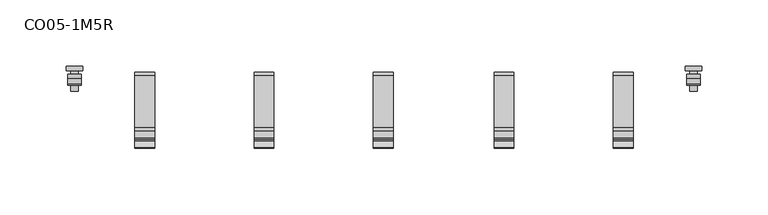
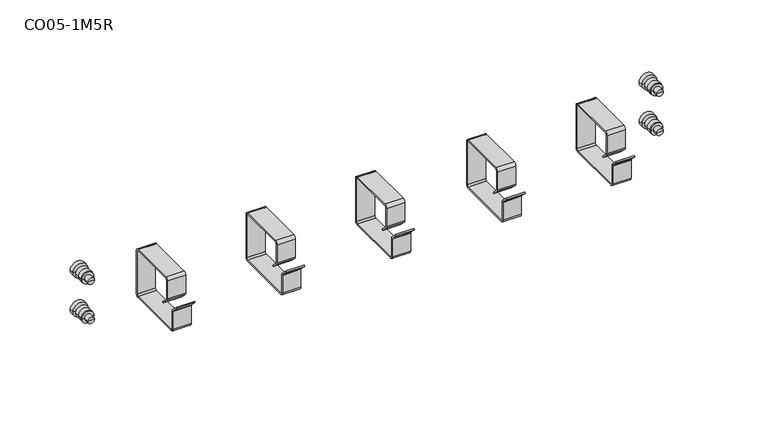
"""IFC4 building model written with IfcOpenShell, lengths in millimetres: proxy geometry, Кабельный организатор_1M5R : CO05-1M5R."""

from ifc_helpers import new_model, si_unit, point, frame, frame_2d, origin, place, context, project, spatial, polyline, circle_curve, ellipse_curve, trimmed, segment, composite_curve, outline, extrude, source, transform, mapped, element, save
from ifc_brep_helpers import plane_surface, cylinder_surface, revolved_surface, advanced_brep


def co05_1m5r_8cccb76f(model_context):
    return source(origin(), model_context, "Body", "SolidModel", [
        advanced_brep(
        [(239.6565731, 3.4999999, 5.0), (227.3853774, 3.4999999, 5.0), (233.5209752, 3.4999999, 5.0), (239.6565731, 0.0, 5.0), (227.3853774, 0.0, 5.0), (236.4065702, 0.0, 5.0), (230.6353803, 0.0, 5.0), (236.4065702, -2.45, 5.0), (230.6353803, -2.45, 5.0), (238.6388411, -2.45, 5.0), (228.4031094, -2.45, 5.0), (238.6180366, -5.6500002, 5.0), (228.4239138, -5.6500002, 5.0), (238.6180366, -9.6499999, 5.0), (228.4239138, -9.6499999, 5.0), (238.5788913, -10.6500001, 5.0), (228.4630592, -10.6500001, 5.0), (236.4065702, -10.6500001, 5.0), (230.6353803, -10.6500001, 5.0), (236.4065702, -15.2500006, 5.0), (230.6353803, -15.2500006, 5.0), (233.5209752, -15.2500006, 5.0)],
        [
            (0, 1, circle_curve(frame((233.5209752, 3.4999999, 5.0), z_axis=(0.0, 1.0, 0.0), x_axis=(-1.0, 0.0, 0.0)), 6.1355978)),
            (1, 2),
            (2, 0),
            (1, 0, circle_curve(frame((233.5209752, 3.4999999, 5.0), z_axis=(0.0, 1.0, 0.0), x_axis=(-1.0, 0.0, 0.0)), 6.1355978)),
            (3, 4, circle_curve(frame((233.5209752, 0.0, 5.0), z_axis=(0.0, 1.0, 0.0), x_axis=(-1.0, 0.0, 0.0)), 6.1355978)),
            (4, 1),
            (0, 3),
            (4, 3, circle_curve(frame((233.5209752, 0.0, 5.0), z_axis=(0.0, 1.0, 0.0), x_axis=(-1.0, 0.0, 0.0)), 6.1355978)),
            (5, 6, circle_curve(frame((233.5209752, 0.0, 5.0), z_axis=(0.0, 1.0, 0.0), x_axis=(-1.0, 0.0, 0.0)), 2.885595)),
            (6, 4),
            (3, 5),
            (6, 5, circle_curve(frame((233.5209752, 0.0, 5.0), z_axis=(0.0, 1.0, 0.0), x_axis=(-1.0, 0.0, 0.0)), 2.885595)),
            (7, 8, circle_curve(frame((233.5209752, -2.45, 5.0), z_axis=(0.0, 1.0, 0.0), x_axis=(-1.0, 0.0, 0.0)), 2.885595)),
            (8, 6),
            (5, 7),
            (8, 7, circle_curve(frame((233.5209752, -2.45, 5.0), z_axis=(0.0, 1.0, 0.0), x_axis=(-1.0, 0.0, 0.0)), 2.885595)),
            (9, 10, circle_curve(frame((233.5209752, -2.45, 5.0), z_axis=(0.0, 1.0, 0.0), x_axis=(-1.0, 0.0, 0.0)), 5.1178658)),
            (10, 8),
            (7, 9),
            (10, 9, circle_curve(frame((233.5209752, -2.45, 5.0), z_axis=(0.0, 1.0, 0.0), x_axis=(-1.0, 0.0, 0.0)), 5.1178658)),
            (11, 12, circle_curve(frame((233.5209752, -5.6500002, 5.0), z_axis=(0.0, 1.0, 0.0), x_axis=(-1.0, 0.0, 0.0)), 5.0970614)),
            (12, 10, circle_curve(frame((213.032179, -4.1500002, 5.0), z_axis=(0.0, 0.0, 1.0), x_axis=(0.0, 1.0, 0.0)), 15.4646533)),
            (9, 11, circle_curve(frame((254.0097715, -4.1500002, 5.0), z_axis=(0.0, 0.0, 1.0), x_axis=(0.0, 1.0, 0.0)), 15.4646533)),
            (12, 11, circle_curve(frame((233.5209752, -5.6500002, 5.0), z_axis=(0.0, 1.0, 0.0), x_axis=(-1.0, 0.0, 0.0)), 5.0970614)),
            (13, 14, circle_curve(frame((233.5209752, -9.6499999, 5.0), z_axis=(0.0, 1.0, 0.0), x_axis=(-1.0, 0.0, 0.0)), 5.0970614)),
            (14, 12),
            (11, 13),
            (14, 13, circle_curve(frame((233.5209752, -9.6499999, 5.0), z_axis=(0.0, 1.0, 0.0), x_axis=(-1.0, 0.0, 0.0)), 5.0970614)),
            (15, 16, circle_curve(frame((233.5209752, -10.6500001, 5.0), z_axis=(0.0, 1.0, 0.0), x_axis=(-1.0, 0.0, 0.0)), 5.057916)),
            (16, 14, circle_curve(frame((234.8413605, -9.899553, 5.0), z_axis=(0.0, 0.0, -1.0), x_axis=(0.0, 1.0, 0.0)), 6.4222969)),
            (13, 15, circle_curve(frame((232.20059, -9.899553, 5.0), z_axis=(0.0, 0.0, -1.0), x_axis=(0.0, 1.0, 0.0)), 6.4222969)),
            (16, 15, circle_curve(frame((233.5209752, -10.6500001, 5.0), z_axis=(0.0, 1.0, 0.0), x_axis=(-1.0, 0.0, 0.0)), 5.057916)),
            (17, 18, circle_curve(frame((233.5209752, -10.6500001, 5.0), z_axis=(0.0, 1.0, 0.0), x_axis=(-1.0, 0.0, 0.0)), 2.885595)),
            (18, 16),
            (15, 17),
            (18, 17, circle_curve(frame((233.5209752, -10.6500001, 5.0), z_axis=(0.0, 1.0, 0.0), x_axis=(-1.0, 0.0, 0.0)), 2.885595)),
            (19, 20, circle_curve(frame((233.5209752, -15.2500006, 5.0), z_axis=(0.0, 1.0, 0.0), x_axis=(-1.0, 0.0, 0.0)), 2.885595)),
            (20, 18),
            (17, 19),
            (20, 19, circle_curve(frame((233.5209752, -15.2500006, 5.0), z_axis=(0.0, 1.0, 0.0), x_axis=(-1.0, 0.0, 0.0)), 2.885595)),
            (21, 20),
            (19, 21),
        ],
        [
            plane_surface(frame((233.5209752, 3.4999999, 5.0), z_axis=(0.0, 1.0, 0.0), x_axis=(-1.0, 0.0, 0.0))),
            cylinder_surface(frame((233.5209752, 3.4999999, 5.0), z_axis=(0.0, -1.0, 0.0), x_axis=(-1.0, 0.0, 0.0)), 6.1355978),
            plane_surface(frame((233.5209752, 0.0, 5.0), z_axis=(0.0, -1.0, 0.0), x_axis=(-1.0, 0.0, 0.0))),
            cylinder_surface(frame((233.5209752, 3.4999999, 5.0), z_axis=(0.0, -1.0, 0.0), x_axis=(-1.0, 0.0, 0.0)), 2.885595),
            plane_surface(frame((233.5209752, -2.45, 5.0), z_axis=(0.0, 1.0, 0.0), x_axis=(-1.0, 0.0, 0.0))),
            revolved_surface(trimmed(ellipse_curve(frame((213.032179, -4.1500002, 5.0), z_axis=(0.0, 0.0, -1.0), x_axis=(0.0, 1.0, 0.0)), 15.4646533, 15.4646533), [point((228.4031094, -2.45, 5.0))], [point((228.4239138, -5.6500002, 5.0))], True, "CARTESIAN"), (233.5209752, 3.4999999, 5.0), (0.0, -1.0, 0.0)),
            cylinder_surface(frame((233.5209752, 3.4999999, 5.0), z_axis=(0.0, -1.0, 0.0), x_axis=(-1.0, 0.0, 0.0)), 5.0970614),
            revolved_surface(trimmed(ellipse_curve(frame((234.8413605, -9.899553, 5.0), z_axis=(0.0, 0.0, 1.0), x_axis=(0.0, 1.0, 0.0)), 6.4222969, 6.4222969), [point((228.4239138, -9.6499999, 5.0))], [point((228.4630592, -10.6500001, 5.0))], True, "CARTESIAN"), (233.5209752, 3.4999999, 5.0), (0.0, -1.0, 0.0)),
            plane_surface(frame((233.5209752, -10.6500001, 5.0), z_axis=(0.0, -1.0, 0.0), x_axis=(-1.0, 0.0, 0.0))),
            plane_surface(frame((233.5209752, -15.2500006, 5.0), z_axis=(0.0, -1.0, 0.0), x_axis=(-1.0, 0.0, 0.0))),
        ],
        [
            (0, [[1, 2, 3]]),
            (0, [[4, -3, -2]]),
            (1, [[5, 6, -1, 7]]),
            (1, [[8, -7, -4, -6]]),
            (2, [[9, 10, -5, 11]]),
            (2, [[12, -11, -8, -10]]),
            (3, [[13, 14, -9, 15]]),
            (3, [[16, -15, -12, -14]]),
            (4, [[17, 18, -13, 19]]),
            (4, [[20, -19, -16, -18]]),
            (5, [[21, 22, -17, 23]]),
            (5, [[24, -23, -20, -22]]),
            (6, [[25, 26, -21, 27]]),
            (6, [[28, -27, -24, -26]]),
            (7, [[29, 30, -25, 31]]),
            (7, [[32, -31, -28, -30]]),
            (8, [[33, 34, -29, 35]]),
            (8, [[36, -35, -32, -34]]),
            (3, [[37, 38, -33, 39]]),
            (3, [[40, -39, -36, -38]]),
            (9, [[41, -37, 42]]),
            (9, [[-42, -40, -41]]),
        ],
    ),
        advanced_brep(
        [(239.6565731, 3.4999999, 39.0), (227.3853774, 3.4999999, 39.0), (233.5209752, 3.4999999, 39.0), (239.6565731, 0.0, 39.0), (227.3853774, 0.0, 39.0), (236.4065702, 0.0, 39.0), (230.6353803, 0.0, 39.0), (236.4065702, -2.45, 39.0), (230.6353803, -2.45, 39.0), (238.6388411, -2.45, 39.0), (228.4031094, -2.45, 39.0), (238.6180366, -5.6500002, 39.0), (228.4239138, -5.6500002, 39.0), (238.6180366, -9.6499999, 39.0), (228.4239138, -9.6499999, 39.0), (238.5788913, -10.6500001, 39.0), (228.4630592, -10.6500001, 39.0), (236.4065702, -10.6500001, 39.0), (230.6353803, -10.6500001, 39.0), (236.4065702, -15.2500006, 39.0), (230.6353803, -15.2500006, 39.0), (233.5209752, -15.2500006, 39.0)],
        [
            (0, 1, circle_curve(frame((233.5209752, 3.4999999, 39.0), z_axis=(0.0, 1.0, 0.0), x_axis=(-1.0, 0.0, 0.0)), 6.1355978)),
            (1, 2),
            (2, 0),
            (1, 0, circle_curve(frame((233.5209752, 3.4999999, 39.0), z_axis=(0.0, 1.0, 0.0), x_axis=(-1.0, 0.0, 0.0)), 6.1355978)),
            (3, 4, circle_curve(frame((233.5209752, 0.0, 39.0), z_axis=(0.0, 1.0, 0.0), x_axis=(-1.0, 0.0, 0.0)), 6.1355978)),
            (4, 1),
            (0, 3),
            (4, 3, circle_curve(frame((233.5209752, 0.0, 39.0), z_axis=(0.0, 1.0, 0.0), x_axis=(-1.0, 0.0, 0.0)), 6.1355978)),
            (5, 6, circle_curve(frame((233.5209752, 0.0, 39.0), z_axis=(0.0, 1.0, 0.0), x_axis=(-1.0, 0.0, 0.0)), 2.885595)),
            (6, 4),
            (3, 5),
            (6, 5, circle_curve(frame((233.5209752, 0.0, 39.0), z_axis=(0.0, 1.0, 0.0), x_axis=(-1.0, 0.0, 0.0)), 2.885595)),
            (7, 8, circle_curve(frame((233.5209752, -2.45, 39.0), z_axis=(0.0, 1.0, 0.0), x_axis=(-1.0, 0.0, 0.0)), 2.885595)),
            (8, 6),
            (5, 7),
            (8, 7, circle_curve(frame((233.5209752, -2.45, 39.0), z_axis=(0.0, 1.0, 0.0), x_axis=(-1.0, 0.0, 0.0)), 2.885595)),
            (9, 10, circle_curve(frame((233.5209752, -2.45, 39.0), z_axis=(0.0, 1.0, 0.0), x_axis=(-1.0, 0.0, 0.0)), 5.1178658)),
            (10, 8),
            (7, 9),
            (10, 9, circle_curve(frame((233.5209752, -2.45, 39.0), z_axis=(0.0, 1.0, 0.0), x_axis=(-1.0, 0.0, 0.0)), 5.1178658)),
            (11, 12, circle_curve(frame((233.5209752, -5.6500002, 39.0), z_axis=(0.0, 1.0, 0.0), x_axis=(-1.0, 0.0, 0.0)), 5.0970614)),
            (12, 10, circle_curve(frame((213.032179, -4.1500002, 39.0), z_axis=(0.0, 0.0, 1.0), x_axis=(0.0, 1.0, 0.0)), 15.4646533)),
            (9, 11, circle_curve(frame((254.0097715, -4.1500002, 39.0), z_axis=(0.0, 0.0, 1.0), x_axis=(0.0, 1.0, 0.0)), 15.4646533)),
            (12, 11, circle_curve(frame((233.5209752, -5.6500002, 39.0), z_axis=(0.0, 1.0, 0.0), x_axis=(-1.0, 0.0, 0.0)), 5.0970614)),
            (13, 14, circle_curve(frame((233.5209752, -9.6499999, 39.0), z_axis=(0.0, 1.0, 0.0), x_axis=(-1.0, 0.0, 0.0)), 5.0970614)),
            (14, 12),
            (11, 13),
            (14, 13, circle_curve(frame((233.5209752, -9.6499999, 39.0), z_axis=(0.0, 1.0, 0.0), x_axis=(-1.0, 0.0, 0.0)), 5.0970614)),
            (15, 16, circle_curve(frame((233.5209752, -10.6500001, 39.0), z_axis=(0.0, 1.0, 0.0), x_axis=(-1.0, 0.0, 0.0)), 5.057916)),
            (16, 14, circle_curve(frame((234.8413605, -9.899553, 39.0), z_axis=(0.0, 0.0, -1.0), x_axis=(0.0, 1.0, 0.0)), 6.4222969)),
            (13, 15, circle_curve(frame((232.20059, -9.899553, 39.0), z_axis=(0.0, 0.0, -1.0), x_axis=(0.0, 1.0, 0.0)), 6.4222969)),
            (16, 15, circle_curve(frame((233.5209752, -10.6500001, 39.0), z_axis=(0.0, 1.0, 0.0), x_axis=(-1.0, 0.0, 0.0)), 5.057916)),
            (17, 18, circle_curve(frame((233.5209752, -10.6500001, 39.0), z_axis=(0.0, 1.0, 0.0), x_axis=(-1.0, 0.0, 0.0)), 2.885595)),
            (18, 16),
            (15, 17),
            (18, 17, circle_curve(frame((233.5209752, -10.6500001, 39.0), z_axis=(0.0, 1.0, 0.0), x_axis=(-1.0, 0.0, 0.0)), 2.885595)),
            (19, 20, circle_curve(frame((233.5209752, -15.2500006, 39.0), z_axis=(0.0, 1.0, 0.0), x_axis=(-1.0, 0.0, 0.0)), 2.885595)),
            (20, 18),
            (17, 19),
            (20, 19, circle_curve(frame((233.5209752, -15.2500006, 39.0), z_axis=(0.0, 1.0, 0.0), x_axis=(-1.0, 0.0, 0.0)), 2.885595)),
            (21, 20),
            (19, 21),
        ],
        [
            plane_surface(frame((233.5209752, 3.4999999, 39.0), z_axis=(0.0, 1.0, 0.0), x_axis=(-1.0, 0.0, 0.0))),
            cylinder_surface(frame((233.5209752, 3.4999999, 39.0), z_axis=(0.0, -1.0, 0.0), x_axis=(-1.0, 0.0, 0.0)), 6.1355978),
            plane_surface(frame((233.5209752, 0.0, 39.0), z_axis=(0.0, -1.0, 0.0), x_axis=(-1.0, 0.0, 0.0))),
            cylinder_surface(frame((233.5209752, 3.4999999, 39.0), z_axis=(0.0, -1.0, 0.0), x_axis=(-1.0, 0.0, 0.0)), 2.885595),
            plane_surface(frame((233.5209752, -2.45, 39.0), z_axis=(0.0, 1.0, 0.0), x_axis=(-1.0, 0.0, 0.0))),
            revolved_surface(trimmed(ellipse_curve(frame((213.032179, -4.1500002, 39.0), z_axis=(0.0, 0.0, -1.0), x_axis=(0.0, 1.0, 0.0)), 15.4646533, 15.4646533), [point((228.4031094, -2.45, 39.0))], [point((228.4239138, -5.6500002, 39.0))], True, "CARTESIAN"), (233.5209752, 3.4999999, 39.0), (0.0, -1.0, 0.0)),
            cylinder_surface(frame((233.5209752, 3.4999999, 39.0), z_axis=(0.0, -1.0, 0.0), x_axis=(-1.0, 0.0, 0.0)), 5.0970614),
            revolved_surface(trimmed(ellipse_curve(frame((234.8413605, -9.899553, 39.0), z_axis=(0.0, 0.0, 1.0), x_axis=(0.0, 1.0, 0.0)), 6.4222969, 6.4222969), [point((228.4239138, -9.6499999, 39.0))], [point((228.4630592, -10.6500001, 39.0))], True, "CARTESIAN"), (233.5209752, 3.4999999, 39.0), (0.0, -1.0, 0.0)),
            plane_surface(frame((233.5209752, -10.6500001, 39.0), z_axis=(0.0, -1.0, 0.0), x_axis=(-1.0, 0.0, 0.0))),
            plane_surface(frame((233.5209752, -15.2500006, 39.0), z_axis=(0.0, -1.0, 0.0), x_axis=(-1.0, 0.0, 0.0))),
        ],
        [
            (0, [[1, 2, 3]]),
            (0, [[4, -3, -2]]),
            (1, [[5, 6, -1, 7]]),
            (1, [[8, -7, -4, -6]]),
            (2, [[9, 10, -5, 11]]),
            (2, [[12, -11, -8, -10]]),
            (3, [[13, 14, -9, 15]]),
            (3, [[16, -15, -12, -14]]),
            (4, [[17, 18, -13, 19]]),
            (4, [[20, -19, -16, -18]]),
            (5, [[21, 22, -17, 23]]),
            (5, [[24, -23, -20, -22]]),
            (6, [[25, 26, -21, 27]]),
            (6, [[28, -27, -24, -26]]),
            (7, [[29, 30, -25, 31]]),
            (7, [[32, -31, -28, -30]]),
            (8, [[33, 34, -29, 35]]),
            (8, [[36, -35, -32, -34]]),
            (3, [[37, 38, -33, 39]]),
            (3, [[40, -39, -36, -38]]),
            (9, [[41, -37, 42]]),
            (9, [[-42, -40, -41]]),
        ],
    ),
        advanced_brep(
        [(-227.3898203, 3.4999999, 39.0), (-239.661016, 3.4999999, 39.0), (-233.5254182, 3.4999999, 39.0), (-227.3898203, 0.0, 39.0), (-239.661016, 0.0, 39.0), (-230.6398232, 0.0, 39.0), (-236.4110131, 0.0, 39.0), (-230.6398232, -2.45, 39.0), (-236.4110131, -2.45, 39.0), (-228.4075523, -2.45, 39.0), (-238.643284, -2.45, 39.0), (-228.4283568, -5.6500002, 39.0), (-238.6224795, -5.6500002, 39.0), (-228.4283568, -9.6499999, 39.0), (-238.6224795, -9.6499999, 39.0), (-228.4675021, -10.6500001, 39.0), (-238.5833342, -10.6500001, 39.0), (-230.6398232, -10.6500001, 39.0), (-236.4110131, -10.6500001, 39.0), (-230.6398232, -15.2500006, 39.0), (-236.4110131, -15.2500006, 39.0), (-233.5254182, -15.2500006, 39.0)],
        [
            (0, 1, circle_curve(frame((-233.5254182, 3.4999999, 39.0), z_axis=(0.0, 1.0, 0.0), x_axis=(-1.0, 0.0, 0.0)), 6.1355978)),
            (1, 2),
            (2, 0),
            (1, 0, circle_curve(frame((-233.5254182, 3.4999999, 39.0), z_axis=(0.0, 1.0, 0.0), x_axis=(-1.0, 0.0, 0.0)), 6.1355978)),
            (3, 4, circle_curve(frame((-233.5254182, 0.0, 39.0), z_axis=(0.0, 1.0, 0.0), x_axis=(-1.0, 0.0, 0.0)), 6.1355978)),
            (4, 1),
            (0, 3),
            (4, 3, circle_curve(frame((-233.5254182, 0.0, 39.0), z_axis=(0.0, 1.0, 0.0), x_axis=(-1.0, 0.0, 0.0)), 6.1355978)),
            (5, 6, circle_curve(frame((-233.5254182, 0.0, 39.0), z_axis=(0.0, 1.0, 0.0), x_axis=(-1.0, 0.0, 0.0)), 2.885595)),
            (6, 4),
            (3, 5),
            (6, 5, circle_curve(frame((-233.5254182, 0.0, 39.0), z_axis=(0.0, 1.0, 0.0), x_axis=(-1.0, 0.0, 0.0)), 2.885595)),
            (7, 8, circle_curve(frame((-233.5254182, -2.45, 39.0), z_axis=(0.0, 1.0, 0.0), x_axis=(-1.0, 0.0, 0.0)), 2.885595)),
            (8, 6),
            (5, 7),
            (8, 7, circle_curve(frame((-233.5254182, -2.45, 39.0), z_axis=(0.0, 1.0, 0.0), x_axis=(-1.0, 0.0, 0.0)), 2.885595)),
            (9, 10, circle_curve(frame((-233.5254182, -2.45, 39.0), z_axis=(0.0, 1.0, 0.0), x_axis=(-1.0, 0.0, 0.0)), 5.1178658)),
            (10, 8),
            (7, 9),
            (10, 9, circle_curve(frame((-233.5254182, -2.45, 39.0), z_axis=(0.0, 1.0, 0.0), x_axis=(-1.0, 0.0, 0.0)), 5.1178658)),
            (11, 12, circle_curve(frame((-233.5254182, -5.6500002, 39.0), z_axis=(0.0, 1.0, 0.0), x_axis=(-1.0, 0.0, 0.0)), 5.0970614)),
            (12, 10, circle_curve(frame((-254.0142144, -4.1500002, 39.0), z_axis=(0.0, 0.0, 1.0), x_axis=(0.0, 1.0, 0.0)), 15.4646533)),
            (9, 11, circle_curve(frame((-213.0366219, -4.1500002, 39.0), z_axis=(0.0, 0.0, 1.0), x_axis=(0.0, 1.0, 0.0)), 15.4646533)),
            (12, 11, circle_curve(frame((-233.5254182, -5.6500002, 39.0), z_axis=(0.0, 1.0, 0.0), x_axis=(-1.0, 0.0, 0.0)), 5.0970614)),
            (13, 14, circle_curve(frame((-233.5254182, -9.6499999, 39.0), z_axis=(0.0, 1.0, 0.0), x_axis=(-1.0, 0.0, 0.0)), 5.0970614)),
            (14, 12),
            (11, 13),
            (14, 13, circle_curve(frame((-233.5254182, -9.6499999, 39.0), z_axis=(0.0, 1.0, 0.0), x_axis=(-1.0, 0.0, 0.0)), 5.0970614)),
            (15, 16, circle_curve(frame((-233.5254182, -10.6500001, 39.0), z_axis=(0.0, 1.0, 0.0), x_axis=(-1.0, 0.0, 0.0)), 5.057916)),
            (16, 14, circle_curve(frame((-232.2050329, -9.899553, 39.0), z_axis=(0.0, 0.0, -1.0), x_axis=(0.0, 1.0, 0.0)), 6.4222969)),
            (13, 15, circle_curve(frame((-234.8458034, -9.899553, 39.0), z_axis=(0.0, 0.0, -1.0), x_axis=(0.0, 1.0, 0.0)), 6.4222969)),
            (16, 15, circle_curve(frame((-233.5254182, -10.6500001, 39.0), z_axis=(0.0, 1.0, 0.0), x_axis=(-1.0, 0.0, 0.0)), 5.057916)),
            (17, 18, circle_curve(frame((-233.5254182, -10.6500001, 39.0), z_axis=(0.0, 1.0, 0.0), x_axis=(-1.0, 0.0, 0.0)), 2.885595)),
            (18, 16),
            (15, 17),
            (18, 17, circle_curve(frame((-233.5254182, -10.6500001, 39.0), z_axis=(0.0, 1.0, 0.0), x_axis=(-1.0, 0.0, 0.0)), 2.885595)),
            (19, 20, circle_curve(frame((-233.5254182, -15.2500006, 39.0), z_axis=(0.0, 1.0, 0.0), x_axis=(-1.0, 0.0, 0.0)), 2.885595)),
            (20, 18),
            (17, 19),
            (20, 19, circle_curve(frame((-233.5254182, -15.2500006, 39.0), z_axis=(0.0, 1.0, 0.0), x_axis=(-1.0, 0.0, 0.0)), 2.885595)),
            (21, 20),
            (19, 21),
        ],
        [
            plane_surface(frame((-233.5254182, 3.4999999, 39.0), z_axis=(0.0, 1.0, 0.0), x_axis=(-1.0, 0.0, 0.0))),
            cylinder_surface(frame((-233.5254182, 3.4999999, 39.0), z_axis=(0.0, -1.0, 0.0), x_axis=(-1.0, 0.0, 0.0)), 6.1355978),
            plane_surface(frame((-233.5254182, 0.0, 39.0), z_axis=(0.0, -1.0, 0.0), x_axis=(-1.0, 0.0, 0.0))),
            cylinder_surface(frame((-233.5254182, 3.4999999, 39.0), z_axis=(0.0, -1.0, 0.0), x_axis=(-1.0, 0.0, 0.0)), 2.885595),
            plane_surface(frame((-233.5254182, -2.45, 39.0), z_axis=(0.0, 1.0, 0.0), x_axis=(-1.0, 0.0, 0.0))),
            revolved_surface(trimmed(ellipse_curve(frame((-254.0142144, -4.1500002, 39.0), z_axis=(0.0, 0.0, -1.0), x_axis=(0.0, 1.0, 0.0)), 15.4646533, 15.4646533), [point((-238.643284, -2.45, 39.0))], [point((-238.6224795, -5.6500002, 39.0))], True, "CARTESIAN"), (-233.5254182, 3.4999999, 39.0), (0.0, -1.0, 0.0)),
            cylinder_surface(frame((-233.5254182, 3.4999999, 39.0), z_axis=(0.0, -1.0, 0.0), x_axis=(-1.0, 0.0, 0.0)), 5.0970614),
            revolved_surface(trimmed(ellipse_curve(frame((-232.2050329, -9.899553, 39.0), z_axis=(0.0, 0.0, 1.0), x_axis=(0.0, 1.0, 0.0)), 6.4222969, 6.4222969), [point((-238.6224795, -9.6499999, 39.0))], [point((-238.5833342, -10.6500001, 39.0))], True, "CARTESIAN"), (-233.5254182, 3.4999999, 39.0), (0.0, -1.0, 0.0)),
            plane_surface(frame((-233.5254182, -10.6500001, 39.0), z_axis=(0.0, -1.0, 0.0), x_axis=(-1.0, 0.0, 0.0))),
            plane_surface(frame((-233.5254182, -15.2500006, 39.0), z_axis=(0.0, -1.0, 0.0), x_axis=(-1.0, 0.0, 0.0))),
        ],
        [
            (0, [[1, 2, 3]]),
            (0, [[4, -3, -2]]),
            (1, [[5, 6, -1, 7]]),
            (1, [[8, -7, -4, -6]]),
            (2, [[9, 10, -5, 11]]),
            (2, [[12, -11, -8, -10]]),
            (3, [[13, 14, -9, 15]]),
            (3, [[16, -15, -12, -14]]),
            (4, [[17, 18, -13, 19]]),
            (4, [[20, -19, -16, -18]]),
            (5, [[21, 22, -17, 23]]),
            (5, [[24, -23, -20, -22]]),
            (6, [[25, 26, -21, 27]]),
            (6, [[28, -27, -24, -26]]),
            (7, [[29, 30, -25, 31]]),
            (7, [[32, -31, -28, -30]]),
            (8, [[33, 34, -29, 35]]),
            (8, [[36, -35, -32, -34]]),
            (3, [[37, 38, -33, 39]]),
            (3, [[40, -39, -36, -38]]),
            (9, [[41, -37, 42]]),
            (9, [[-42, -40, -41]]),
        ],
    ),
        advanced_brep(
        [(-227.3898203, 3.4999999, 5.0), (-239.661016, 3.4999999, 5.0), (-233.5254182, 3.4999999, 5.0), (-227.3898203, 0.0, 5.0), (-239.661016, 0.0, 5.0), (-230.6398232, 0.0, 5.0), (-236.4110131, 0.0, 5.0), (-230.6398232, -2.45, 5.0), (-236.4110131, -2.45, 5.0), (-228.4075523, -2.45, 5.0), (-238.643284, -2.45, 5.0), (-228.4283568, -5.6500002, 5.0), (-238.6224795, -5.6500002, 5.0), (-228.4283568, -9.6499999, 5.0), (-238.6224795, -9.6499999, 5.0), (-228.4675021, -10.6500001, 5.0), (-238.5833342, -10.6500001, 5.0), (-230.6398232, -10.6500001, 5.0), (-236.4110131, -10.6500001, 5.0), (-230.6398232, -15.2500006, 5.0), (-236.4110131, -15.2500006, 5.0), (-233.5254182, -15.2500006, 5.0)],
        [
            (0, 1, circle_curve(frame((-233.5254182, 3.4999999, 5.0), z_axis=(0.0, 1.0, 0.0), x_axis=(-1.0, 0.0, 0.0)), 6.1355978)),
            (1, 2),
            (2, 0),
            (1, 0, circle_curve(frame((-233.5254182, 3.4999999, 5.0), z_axis=(0.0, 1.0, 0.0), x_axis=(-1.0, 0.0, 0.0)), 6.1355978)),
            (3, 4, circle_curve(frame((-233.5254182, 0.0, 5.0), z_axis=(0.0, 1.0, 0.0), x_axis=(-1.0, 0.0, 0.0)), 6.1355978)),
            (4, 1),
            (0, 3),
            (4, 3, circle_curve(frame((-233.5254182, 0.0, 5.0), z_axis=(0.0, 1.0, 0.0), x_axis=(-1.0, 0.0, 0.0)), 6.1355978)),
            (5, 6, circle_curve(frame((-233.5254182, 0.0, 5.0), z_axis=(0.0, 1.0, 0.0), x_axis=(-1.0, 0.0, 0.0)), 2.885595)),
            (6, 4),
            (3, 5),
            (6, 5, circle_curve(frame((-233.5254182, 0.0, 5.0), z_axis=(0.0, 1.0, 0.0), x_axis=(-1.0, 0.0, 0.0)), 2.885595)),
            (7, 8, circle_curve(frame((-233.5254182, -2.45, 5.0), z_axis=(0.0, 1.0, 0.0), x_axis=(-1.0, 0.0, 0.0)), 2.885595)),
            (8, 6),
            (5, 7),
            (8, 7, circle_curve(frame((-233.5254182, -2.45, 5.0), z_axis=(0.0, 1.0, 0.0), x_axis=(-1.0, 0.0, 0.0)), 2.885595)),
            (9, 10, circle_curve(frame((-233.5254182, -2.45, 5.0), z_axis=(0.0, 1.0, 0.0), x_axis=(-1.0, 0.0, 0.0)), 5.1178658)),
            (10, 8),
            (7, 9),
            (10, 9, circle_curve(frame((-233.5254182, -2.45, 5.0), z_axis=(0.0, 1.0, 0.0), x_axis=(-1.0, 0.0, 0.0)), 5.1178658)),
            (11, 12, circle_curve(frame((-233.5254182, -5.6500002, 5.0), z_axis=(0.0, 1.0, 0.0), x_axis=(-1.0, 0.0, 0.0)), 5.0970614)),
            (12, 10, circle_curve(frame((-254.0142144, -4.1500002, 5.0), z_axis=(0.0, 0.0, 1.0), x_axis=(0.0, 1.0, 0.0)), 15.4646533)),
            (9, 11, circle_curve(frame((-213.0366219, -4.1500002, 5.0), z_axis=(0.0, 0.0, 1.0), x_axis=(0.0, 1.0, 0.0)), 15.4646533)),
            (12, 11, circle_curve(frame((-233.5254182, -5.6500002, 5.0), z_axis=(0.0, 1.0, 0.0), x_axis=(-1.0, 0.0, 0.0)), 5.0970614)),
            (13, 14, circle_curve(frame((-233.5254182, -9.6499999, 5.0), z_axis=(0.0, 1.0, 0.0), x_axis=(-1.0, 0.0, 0.0)), 5.0970614)),
            (14, 12),
            (11, 13),
            (14, 13, circle_curve(frame((-233.5254182, -9.6499999, 5.0), z_axis=(0.0, 1.0, 0.0), x_axis=(-1.0, 0.0, 0.0)), 5.0970614)),
            (15, 16, circle_curve(frame((-233.5254182, -10.6500001, 5.0), z_axis=(0.0, 1.0, 0.0), x_axis=(-1.0, 0.0, 0.0)), 5.057916)),
            (16, 14, circle_curve(frame((-232.2050329, -9.899553, 5.0), z_axis=(0.0, 0.0, -1.0), x_axis=(0.0, 1.0, 0.0)), 6.4222969)),
            (13, 15, circle_curve(frame((-234.8458034, -9.899553, 5.0), z_axis=(0.0, 0.0, -1.0), x_axis=(0.0, 1.0, 0.0)), 6.4222969)),
            (16, 15, circle_curve(frame((-233.5254182, -10.6500001, 5.0), z_axis=(0.0, 1.0, 0.0), x_axis=(-1.0, 0.0, 0.0)), 5.057916)),
            (17, 18, circle_curve(frame((-233.5254182, -10.6500001, 5.0), z_axis=(0.0, 1.0, 0.0), x_axis=(-1.0, 0.0, 0.0)), 2.885595)),
            (18, 16),
            (15, 17),
            (18, 17, circle_curve(frame((-233.5254182, -10.6500001, 5.0), z_axis=(0.0, 1.0, 0.0), x_axis=(-1.0, 0.0, 0.0)), 2.885595)),
            (19, 20, circle_curve(frame((-233.5254182, -15.2500006, 5.0), z_axis=(0.0, 1.0, 0.0), x_axis=(-1.0, 0.0, 0.0)), 2.885595)),
            (20, 18),
            (17, 19),
            (20, 19, circle_curve(frame((-233.5254182, -15.2500006, 5.0), z_axis=(0.0, 1.0, 0.0), x_axis=(-1.0, 0.0, 0.0)), 2.885595)),
            (21, 20),
            (19, 21),
        ],
        [
            plane_surface(frame((-233.5254182, 3.4999999, 5.0), z_axis=(0.0, 1.0, 0.0), x_axis=(-1.0, 0.0, 0.0))),
            cylinder_surface(frame((-233.5254182, 3.4999999, 5.0), z_axis=(0.0, -1.0, 0.0), x_axis=(-1.0, 0.0, 0.0)), 6.1355978),
            plane_surface(frame((-233.5254182, 0.0, 5.0), z_axis=(0.0, -1.0, 0.0), x_axis=(-1.0, 0.0, 0.0))),
            cylinder_surface(frame((-233.5254182, 3.4999999, 5.0), z_axis=(0.0, -1.0, 0.0), x_axis=(-1.0, 0.0, 0.0)), 2.885595),
            plane_surface(frame((-233.5254182, -2.45, 5.0), z_axis=(0.0, 1.0, 0.0), x_axis=(-1.0, 0.0, 0.0))),
            revolved_surface(trimmed(ellipse_curve(frame((-254.0142144, -4.1500002, 5.0), z_axis=(0.0, 0.0, -1.0), x_axis=(0.0, 1.0, 0.0)), 15.4646533, 15.4646533), [point((-238.643284, -2.45, 5.0))], [point((-238.6224795, -5.6500002, 5.0))], True, "CARTESIAN"), (-233.5254182, 3.4999999, 5.0), (0.0, -1.0, 0.0)),
            cylinder_surface(frame((-233.5254182, 3.4999999, 5.0), z_axis=(0.0, -1.0, 0.0), x_axis=(-1.0, 0.0, 0.0)), 5.0970614),
            revolved_surface(trimmed(ellipse_curve(frame((-232.2050329, -9.899553, 5.0), z_axis=(0.0, 0.0, 1.0), x_axis=(0.0, 1.0, 0.0)), 6.4222969, 6.4222969), [point((-238.6224795, -9.6499999, 5.0))], [point((-238.5833342, -10.6500001, 5.0))], True, "CARTESIAN"), (-233.5254182, 3.4999999, 5.0), (0.0, -1.0, 0.0)),
            plane_surface(frame((-233.5254182, -10.6500001, 5.0), z_axis=(0.0, -1.0, 0.0), x_axis=(-1.0, 0.0, 0.0))),
            plane_surface(frame((-233.5254182, -15.2500006, 5.0), z_axis=(0.0, -1.0, 0.0), x_axis=(-1.0, 0.0, 0.0))),
        ],
        [
            (0, [[1, 2, 3]]),
            (0, [[4, -3, -2]]),
            (1, [[5, 6, -1, 7]]),
            (1, [[8, -7, -4, -6]]),
            (2, [[9, 10, -5, 11]]),
            (2, [[12, -11, -8, -10]]),
            (3, [[13, 14, -9, 15]]),
            (3, [[16, -15, -12, -14]]),
            (4, [[17, 18, -13, 19]]),
            (4, [[20, -19, -16, -18]]),
            (5, [[21, 22, -17, 23]]),
            (5, [[24, -23, -20, -22]]),
            (6, [[25, 26, -21, 27]]),
            (6, [[28, -27, -24, -26]]),
            (7, [[29, 30, -25, 31]]),
            (7, [[32, -31, -28, -30]]),
            (8, [[33, 34, -29, 35]]),
            (8, [[36, -35, -32, -34]]),
            (3, [[37, 38, -33, 39]]),
            (3, [[40, -39, -36, -38]]),
            (9, [[41, -37, 42]]),
            (9, [[-42, -40, -41]]),
        ],
    ),
        extrude(outline(composite_curve([segment(trimmed(circle_curve(frame_2d((-50.5725347, 3.9274646)), 2.4274653), [point((-50.5725347, 1.4999993))], [point((-53.0, 3.9274646))], False, "CARTESIAN"), True, "CONTINUOUS"), segment(polyline([(-53.0, 3.9274646), (-53.0, 19.5058873)]), True, "CONTINUOUS"), segment(trimmed(circle_curve(frame_2d((-54.2, 19.5058873)), 1.2), [point((-53.0, 19.5058873))], [point((-53.3523043, 20.3552471))], True, "CARTESIAN"), True, "CONTINUOUS"), segment(polyline([(-53.3523043, 20.3552471), (-58.3053824, 25.308326), (-57.5982756, 26.0154328), (-52.6454921, 21.0626484)]), True, "CONTINUOUS"), segment(trimmed(circle_curve(frame_2d((-54.2, 19.5058873)), 2.2), [point((-52.6454921, 21.0626484))], [point((-52.0, 19.5058873))], False, "CARTESIAN"), True, "CONTINUOUS"), segment(polyline([(-52.0, 19.5058873), (-52.0, 3.9274646)]), True, "CONTINUOUS"), segment(trimmed(circle_curve(frame_2d((-50.5725347, 3.9274646)), 1.4274653), [point((-52.0, 3.9274646))], [point((-50.5725347, 2.4999993))], True, "CARTESIAN"), True, "CONTINUOUS"), segment(polyline([(-50.5725347, 2.4999993), (-3.3995516, 2.4999993)]), True, "CONTINUOUS"), segment(trimmed(circle_curve(frame_2d((-3.3995516, 3.8995509)), 1.3995516), [point((-3.3995516, 2.4999993))], [point((-2.0, 3.8995509))], True, "CARTESIAN"), True, "CONTINUOUS"), segment(polyline([(-2.0, 3.8995509), (-2.0, 40.9999997)]), True, "CONTINUOUS"), segment(trimmed(circle_curve(frame_2d((-3.4, 40.9999997)), 1.4), [point((-2.0, 40.9999997))], [point((-3.4, 42.3999997))], True, "CARTESIAN"), True, "CONTINUOUS"), segment(polyline([(-3.4, 42.3999997), (-42.6, 42.3999997)]), True, "CONTINUOUS"), segment(trimmed(circle_curve(frame_2d((-42.6, 40.9999982)), 1.4000014), [point((-42.6, 42.3999997))], [point((-44.0000014, 40.9999982))], True, "CARTESIAN"), True, "CONTINUOUS"), segment(polyline([(-44.0000014, 40.9999982), (-44.0000014, 25.3941124)]), True, "CONTINUOUS"), segment(trimmed(circle_curve(frame_2d((-42.6000012, 25.3941124)), 1.4000003), [point((-44.0000014, 25.3941124))], [point((-43.5899506, 24.4041624))], True, "CARTESIAN"), True, "CONTINUOUS"), segment(polyline([(-43.5899506, 24.4041624), (-38.6360378, 19.4502526), (-39.3431446, 18.7431458), (-44.2970571, 23.6970554)]), True, "CONTINUOUS"), segment(trimmed(circle_curve(frame_2d((-42.6000012, 25.3941124)), 2.4000003), [point((-44.2970571, 23.6970554))], [point((-45.0000014, 25.3941124))], False, "CARTESIAN"), True, "CONTINUOUS"), segment(polyline([(-45.0000014, 25.3941124), (-45.0000014, 40.9999982)]), True, "CONTINUOUS"), segment(trimmed(circle_curve(frame_2d((-42.6, 40.9999982)), 2.4000014), [point((-45.0000014, 40.9999982))], [point((-42.6, 43.3999997))], False, "CARTESIAN"), True, "CONTINUOUS"), segment(polyline([(-42.6, 43.3999997), (-3.4, 43.3999997)]), True, "CONTINUOUS"), segment(trimmed(circle_curve(frame_2d((-3.4, 40.9999997)), 2.4), [point((-3.4, 43.3999997))], [point((-1.0, 40.9999997))], False, "CARTESIAN"), True, "CONTINUOUS"), segment(polyline([(-1.0, 40.9999997), (-1.0, 3.8995509)]), True, "CONTINUOUS"), segment(trimmed(circle_curve(frame_2d((-3.3995516, 3.8995509)), 2.3995516), [point((-1.0, 3.8995509))], [point((-3.3995516, 1.4999993))], False, "CARTESIAN"), True, "CONTINUOUS"), segment(polyline([(-3.3995516, 1.4999993), (-50.5725347, 1.4999993)]), True, "CONTINUOUS")], self_intersect=False)), frame((173.0, 0.0, 0.0), z_axis=(1.0, 0.0, 0.0), x_axis=(0.0, 1.0, 0.0)), (0.0, 0.0, 1.0), 15.0),
        extrude(outline(composite_curve([segment(trimmed(circle_curve(frame_2d((-50.5725347, 3.9274646)), 2.4274653), [point((-50.5725347, 1.4999993))], [point((-53.0, 3.9274646))], False, "CARTESIAN"), True, "CONTINUOUS"), segment(polyline([(-53.0, 3.9274646), (-53.0, 19.5058873)]), True, "CONTINUOUS"), segment(trimmed(circle_curve(frame_2d((-54.2, 19.5058873)), 1.2), [point((-53.0, 19.5058873))], [point((-53.3523043, 20.3552471))], True, "CARTESIAN"), True, "CONTINUOUS"), segment(polyline([(-53.3523043, 20.3552471), (-58.3053824, 25.308326), (-57.5982756, 26.0154328), (-52.6454921, 21.0626484)]), True, "CONTINUOUS"), segment(trimmed(circle_curve(frame_2d((-54.2, 19.5058873)), 2.2), [point((-52.6454921, 21.0626484))], [point((-52.0, 19.5058873))], False, "CARTESIAN"), True, "CONTINUOUS"), segment(polyline([(-52.0, 19.5058873), (-52.0, 3.9274646)]), True, "CONTINUOUS"), segment(trimmed(circle_curve(frame_2d((-50.5725347, 3.9274646)), 1.4274653), [point((-52.0, 3.9274646))], [point((-50.5725347, 2.4999993))], True, "CARTESIAN"), True, "CONTINUOUS"), segment(polyline([(-50.5725347, 2.4999993), (-3.3995516, 2.4999993)]), True, "CONTINUOUS"), segment(trimmed(circle_curve(frame_2d((-3.3995516, 3.8995509)), 1.3995516), [point((-3.3995516, 2.4999993))], [point((-2.0, 3.8995509))], True, "CARTESIAN"), True, "CONTINUOUS"), segment(polyline([(-2.0, 3.8995509), (-2.0, 40.9999997)]), True, "CONTINUOUS"), segment(trimmed(circle_curve(frame_2d((-3.4, 40.9999997)), 1.4), [point((-2.0, 40.9999997))], [point((-3.4, 42.3999997))], True, "CARTESIAN"), True, "CONTINUOUS"), segment(polyline([(-3.4, 42.3999997), (-42.6, 42.3999997)]), True, "CONTINUOUS"), segment(trimmed(circle_curve(frame_2d((-42.6, 40.9999982)), 1.4000014), [point((-42.6, 42.3999997))], [point((-44.0000014, 40.9999982))], True, "CARTESIAN"), True, "CONTINUOUS"), segment(polyline([(-44.0000014, 40.9999982), (-44.0000014, 25.3941124)]), True, "CONTINUOUS"), segment(trimmed(circle_curve(frame_2d((-42.6000012, 25.3941124)), 1.4000003), [point((-44.0000014, 25.3941124))], [point((-43.5899506, 24.4041624))], True, "CARTESIAN"), True, "CONTINUOUS"), segment(polyline([(-43.5899506, 24.4041624), (-38.6360378, 19.4502526), (-39.3431446, 18.7431458), (-44.2970571, 23.6970554)]), True, "CONTINUOUS"), segment(trimmed(circle_curve(frame_2d((-42.6000012, 25.3941124)), 2.4000003), [point((-44.2970571, 23.6970554))], [point((-45.0000014, 25.3941124))], False, "CARTESIAN"), True, "CONTINUOUS"), segment(polyline([(-45.0000014, 25.3941124), (-45.0000014, 40.9999982)]), True, "CONTINUOUS"), segment(trimmed(circle_curve(frame_2d((-42.6, 40.9999982)), 2.4000014), [point((-45.0000014, 40.9999982))], [point((-42.6, 43.3999997))], False, "CARTESIAN"), True, "CONTINUOUS"), segment(polyline([(-42.6, 43.3999997), (-3.4, 43.3999997)]), True, "CONTINUOUS"), segment(trimmed(circle_curve(frame_2d((-3.4, 40.9999997)), 2.4), [point((-3.4, 43.3999997))], [point((-1.0, 40.9999997))], False, "CARTESIAN"), True, "CONTINUOUS"), segment(polyline([(-1.0, 40.9999997), (-1.0, 3.8995509)]), True, "CONTINUOUS"), segment(trimmed(circle_curve(frame_2d((-3.3995516, 3.8995509)), 2.3995516), [point((-1.0, 3.8995509))], [point((-3.3995516, 1.4999993))], False, "CARTESIAN"), True, "CONTINUOUS"), segment(polyline([(-3.3995516, 1.4999993), (-50.5725347, 1.4999993)]), True, "CONTINUOUS")], self_intersect=False)), frame((83.0, 0.0, 0.0), z_axis=(1.0, 0.0, 0.0), x_axis=(0.0, 1.0, 0.0)), (0.0, 0.0, 1.0), 15.0),
        extrude(outline(composite_curve([segment(trimmed(circle_curve(frame_2d((-50.5725347, 3.9274646)), 2.4274653), [point((-50.5725347, 1.4999993))], [point((-53.0, 3.9274646))], False, "CARTESIAN"), True, "CONTINUOUS"), segment(polyline([(-53.0, 3.9274646), (-53.0, 19.5058873)]), True, "CONTINUOUS"), segment(trimmed(circle_curve(frame_2d((-54.2, 19.5058873)), 1.2), [point((-53.0, 19.5058873))], [point((-53.3523043, 20.3552471))], True, "CARTESIAN"), True, "CONTINUOUS"), segment(polyline([(-53.3523043, 20.3552471), (-58.3053824, 25.308326), (-57.5982756, 26.0154328), (-52.6454921, 21.0626484)]), True, "CONTINUOUS"), segment(trimmed(circle_curve(frame_2d((-54.2, 19.5058873)), 2.2), [point((-52.6454921, 21.0626484))], [point((-52.0, 19.5058873))], False, "CARTESIAN"), True, "CONTINUOUS"), segment(polyline([(-52.0, 19.5058873), (-52.0, 3.9274646)]), True, "CONTINUOUS"), segment(trimmed(circle_curve(frame_2d((-50.5725347, 3.9274646)), 1.4274653), [point((-52.0, 3.9274646))], [point((-50.5725347, 2.4999993))], True, "CARTESIAN"), True, "CONTINUOUS"), segment(polyline([(-50.5725347, 2.4999993), (-3.3995516, 2.4999993)]), True, "CONTINUOUS"), segment(trimmed(circle_curve(frame_2d((-3.3995516, 3.8995509)), 1.3995516), [point((-3.3995516, 2.4999993))], [point((-2.0, 3.8995509))], True, "CARTESIAN"), True, "CONTINUOUS"), segment(polyline([(-2.0, 3.8995509), (-2.0, 40.9999997)]), True, "CONTINUOUS"), segment(trimmed(circle_curve(frame_2d((-3.4, 40.9999997)), 1.4), [point((-2.0, 40.9999997))], [point((-3.4, 42.3999997))], True, "CARTESIAN"), True, "CONTINUOUS"), segment(polyline([(-3.4, 42.3999997), (-42.6, 42.3999997)]), True, "CONTINUOUS"), segment(trimmed(circle_curve(frame_2d((-42.6, 40.9999982)), 1.4000014), [point((-42.6, 42.3999997))], [point((-44.0000014, 40.9999982))], True, "CARTESIAN"), True, "CONTINUOUS"), segment(polyline([(-44.0000014, 40.9999982), (-44.0000014, 25.3941124)]), True, "CONTINUOUS"), segment(trimmed(circle_curve(frame_2d((-42.6000012, 25.3941124)), 1.4000003), [point((-44.0000014, 25.3941124))], [point((-43.5899506, 24.4041624))], True, "CARTESIAN"), True, "CONTINUOUS"), segment(polyline([(-43.5899506, 24.4041624), (-38.6360378, 19.4502526), (-39.3431446, 18.7431458), (-44.2970571, 23.6970554)]), True, "CONTINUOUS"), segment(trimmed(circle_curve(frame_2d((-42.6000012, 25.3941124)), 2.4000003), [point((-44.2970571, 23.6970554))], [point((-45.0000014, 25.3941124))], False, "CARTESIAN"), True, "CONTINUOUS"), segment(polyline([(-45.0000014, 25.3941124), (-45.0000014, 40.9999982)]), True, "CONTINUOUS"), segment(trimmed(circle_curve(frame_2d((-42.6, 40.9999982)), 2.4000014), [point((-45.0000014, 40.9999982))], [point((-42.6, 43.3999997))], False, "CARTESIAN"), True, "CONTINUOUS"), segment(polyline([(-42.6, 43.3999997), (-3.4, 43.3999997)]), True, "CONTINUOUS"), segment(trimmed(circle_curve(frame_2d((-3.4, 40.9999997)), 2.4), [point((-3.4, 43.3999997))], [point((-1.0, 40.9999997))], False, "CARTESIAN"), True, "CONTINUOUS"), segment(polyline([(-1.0, 40.9999997), (-1.0, 3.8995509)]), True, "CONTINUOUS"), segment(trimmed(circle_curve(frame_2d((-3.3995516, 3.8995509)), 2.3995516), [point((-1.0, 3.8995509))], [point((-3.3995516, 1.4999993))], False, "CARTESIAN"), True, "CONTINUOUS"), segment(polyline([(-3.3995516, 1.4999993), (-50.5725347, 1.4999993)]), True, "CONTINUOUS")], self_intersect=False)), frame((-8.0, 0.0, 0.0), z_axis=(1.0, 0.0, 0.0), x_axis=(0.0, 1.0, 0.0)), (0.0, 0.0, 1.0), 15.0),
        extrude(outline(composite_curve([segment(trimmed(circle_curve(frame_2d((-50.5725347, 3.9274646)), 2.4274653), [point((-50.5725347, 1.4999993))], [point((-53.0, 3.9274646))], False, "CARTESIAN"), True, "CONTINUOUS"), segment(polyline([(-53.0, 3.9274646), (-53.0, 19.5058873)]), True, "CONTINUOUS"), segment(trimmed(circle_curve(frame_2d((-54.2, 19.5058873)), 1.2), [point((-53.0, 19.5058873))], [point((-53.3523043, 20.3552471))], True, "CARTESIAN"), True, "CONTINUOUS"), segment(polyline([(-53.3523043, 20.3552471), (-58.3053824, 25.308326), (-57.5982756, 26.0154328), (-52.6454921, 21.0626484)]), True, "CONTINUOUS"), segment(trimmed(circle_curve(frame_2d((-54.2, 19.5058873)), 2.2), [point((-52.6454921, 21.0626484))], [point((-52.0, 19.5058873))], False, "CARTESIAN"), True, "CONTINUOUS"), segment(polyline([(-52.0, 19.5058873), (-52.0, 3.9274646)]), True, "CONTINUOUS"), segment(trimmed(circle_curve(frame_2d((-50.5725347, 3.9274646)), 1.4274653), [point((-52.0, 3.9274646))], [point((-50.5725347, 2.4999993))], True, "CARTESIAN"), True, "CONTINUOUS"), segment(polyline([(-50.5725347, 2.4999993), (-3.3995516, 2.4999993)]), True, "CONTINUOUS"), segment(trimmed(circle_curve(frame_2d((-3.3995516, 3.8995509)), 1.3995516), [point((-3.3995516, 2.4999993))], [point((-2.0, 3.8995509))], True, "CARTESIAN"), True, "CONTINUOUS"), segment(polyline([(-2.0, 3.8995509), (-2.0, 40.9999997)]), True, "CONTINUOUS"), segment(trimmed(circle_curve(frame_2d((-3.4, 40.9999997)), 1.4), [point((-2.0, 40.9999997))], [point((-3.4, 42.3999997))], True, "CARTESIAN"), True, "CONTINUOUS"), segment(polyline([(-3.4, 42.3999997), (-42.6, 42.3999997)]), True, "CONTINUOUS"), segment(trimmed(circle_curve(frame_2d((-42.6, 40.9999982)), 1.4000014), [point((-42.6, 42.3999997))], [point((-44.0000014, 40.9999982))], True, "CARTESIAN"), True, "CONTINUOUS"), segment(polyline([(-44.0000014, 40.9999982), (-44.0000014, 25.3941124)]), True, "CONTINUOUS"), segment(trimmed(circle_curve(frame_2d((-42.6000012, 25.3941124)), 1.4000003), [point((-44.0000014, 25.3941124))], [point((-43.5899506, 24.4041624))], True, "CARTESIAN"), True, "CONTINUOUS"), segment(polyline([(-43.5899506, 24.4041624), (-38.6360378, 19.4502526), (-39.3431446, 18.7431458), (-44.2970571, 23.6970554)]), True, "CONTINUOUS"), segment(trimmed(circle_curve(frame_2d((-42.6000012, 25.3941124)), 2.4000003), [point((-44.2970571, 23.6970554))], [point((-45.0000014, 25.3941124))], False, "CARTESIAN"), True, "CONTINUOUS"), segment(polyline([(-45.0000014, 25.3941124), (-45.0000014, 40.9999982)]), True, "CONTINUOUS"), segment(trimmed(circle_curve(frame_2d((-42.6, 40.9999982)), 2.4000014), [point((-45.0000014, 40.9999982))], [point((-42.6, 43.3999997))], False, "CARTESIAN"), True, "CONTINUOUS"), segment(polyline([(-42.6, 43.3999997), (-3.4, 43.3999997)]), True, "CONTINUOUS"), segment(trimmed(circle_curve(frame_2d((-3.4, 40.9999997)), 2.4), [point((-3.4, 43.3999997))], [point((-1.0, 40.9999997))], False, "CARTESIAN"), True, "CONTINUOUS"), segment(polyline([(-1.0, 40.9999997), (-1.0, 3.8995509)]), True, "CONTINUOUS"), segment(trimmed(circle_curve(frame_2d((-3.3995516, 3.8995509)), 2.3995516), [point((-1.0, 3.8995509))], [point((-3.3995516, 1.4999993))], False, "CARTESIAN"), True, "CONTINUOUS"), segment(polyline([(-3.3995516, 1.4999993), (-50.5725347, 1.4999993)]), True, "CONTINUOUS")], self_intersect=False)), frame((-98.0, 0.0, 0.0), z_axis=(1.0, 0.0, 0.0), x_axis=(0.0, 1.0, 0.0)), (0.0, 0.0, 1.0), 15.0),
        extrude(outline(composite_curve([segment(trimmed(circle_curve(frame_2d((-50.5725347, 3.9274646)), 2.4274653), [point((-50.5725347, 1.4999993))], [point((-52.9999999, 3.9274646))], False, "CARTESIAN"), True, "CONTINUOUS"), segment(polyline([(-52.9999999, 3.9274646), (-52.9999999, 19.5058873)]), True, "CONTINUOUS"), segment(trimmed(circle_curve(frame_2d((-54.1999999, 19.5058873)), 1.2), [point((-52.9999999, 19.5058873))], [point((-53.3523043, 20.3552471))], True, "CARTESIAN"), True, "CONTINUOUS"), segment(polyline([(-53.3523043, 20.3552471), (-58.3053823, 25.308326), (-57.5982756, 26.0154328), (-52.645492, 21.0626484)]), True, "CONTINUOUS"), segment(trimmed(circle_curve(frame_2d((-54.1999999, 19.5058873)), 2.2), [point((-52.645492, 21.0626484))], [point((-51.9999999, 19.5058873))], False, "CARTESIAN"), True, "CONTINUOUS"), segment(polyline([(-51.9999999, 19.5058873), (-51.9999999, 3.9274646)]), True, "CONTINUOUS"), segment(trimmed(circle_curve(frame_2d((-50.5725347, 3.9274646)), 1.4274653), [point((-51.9999999, 3.9274646))], [point((-50.5725347, 2.4999993))], True, "CARTESIAN"), True, "CONTINUOUS"), segment(polyline([(-50.5725347, 2.4999993), (-3.3995515, 2.4999993)]), True, "CONTINUOUS"), segment(trimmed(circle_curve(frame_2d((-3.3995515, 3.8995509)), 1.3995516), [point((-3.3995515, 2.4999993))], [point((-1.9999999, 3.8995509))], True, "CARTESIAN"), True, "CONTINUOUS"), segment(polyline([(-1.9999999, 3.8995509), (-1.9999999, 40.9999997)]), True, "CONTINUOUS"), segment(trimmed(circle_curve(frame_2d((-3.3999999, 40.9999997)), 1.4), [point((-1.9999999, 40.9999997))], [point((-3.3999999, 42.3999997))], True, "CARTESIAN"), True, "CONTINUOUS"), segment(polyline([(-3.3999999, 42.3999997), (-42.5999999, 42.3999997)]), True, "CONTINUOUS"), segment(trimmed(circle_curve(frame_2d((-42.5999999, 40.9999982)), 1.4000014), [point((-42.5999999, 42.3999997))], [point((-44.0000014, 40.9999982))], True, "CARTESIAN"), True, "CONTINUOUS"), segment(polyline([(-44.0000014, 40.9999982), (-44.0000014, 25.3941124)]), True, "CONTINUOUS"), segment(trimmed(circle_curve(frame_2d((-42.6000011, 25.3941124)), 1.4000003), [point((-44.0000014, 25.3941124))], [point((-43.5899505, 24.4041624))], True, "CARTESIAN"), True, "CONTINUOUS"), segment(polyline([(-43.5899505, 24.4041624), (-38.6360378, 19.4502526), (-39.3431446, 18.7431458), (-44.2970571, 23.6970554)]), True, "CONTINUOUS"), segment(trimmed(circle_curve(frame_2d((-42.6000011, 25.3941124)), 2.4000003), [point((-44.2970571, 23.6970554))], [point((-45.0000014, 25.3941124))], False, "CARTESIAN"), True, "CONTINUOUS"), segment(polyline([(-45.0000014, 25.3941124), (-45.0000014, 40.9999982)]), True, "CONTINUOUS"), segment(trimmed(circle_curve(frame_2d((-42.5999999, 40.9999982)), 2.4000014), [point((-45.0000014, 40.9999982))], [point((-42.5999999, 43.3999997))], False, "CARTESIAN"), True, "CONTINUOUS"), segment(polyline([(-42.5999999, 43.3999997), (-3.3999999, 43.3999997)]), True, "CONTINUOUS"), segment(trimmed(circle_curve(frame_2d((-3.3999999, 40.9999997)), 2.4), [point((-3.3999999, 43.3999997))], [point((-0.9999999, 40.9999997))], False, "CARTESIAN"), True, "CONTINUOUS"), segment(polyline([(-0.9999999, 40.9999997), (-0.9999999, 3.8995509)]), True, "CONTINUOUS"), segment(trimmed(circle_curve(frame_2d((-3.3995515, 3.8995509)), 2.3995516), [point((-0.9999999, 3.8995509))], [point((-3.3995515, 1.4999993))], False, "CARTESIAN"), True, "CONTINUOUS"), segment(polyline([(-3.3995515, 1.4999993), (-50.5725347, 1.4999993)]), True, "CONTINUOUS")], self_intersect=False)), frame((-188.0, 0.0, 0.0), z_axis=(1.0, 0.0, 0.0), x_axis=(0.0, 1.0, 0.0)), (0.0, 0.0, 1.0), 15.0),
    ])


if __name__ == "__main__":
    model = new_model("IFC4")
    model_context = context("Model", 3, world=origin())
    ifc_project = project(units=[si_unit("LENGTHUNIT", "METRE", prefix="MILLI")], contexts=[model_context])
    site = spatial("IfcSite", under=ifc_project)
    building = spatial("IfcBuilding", under=site)
    placement = place(None, origin())
    co05_1m5r_shape = co05_1m5r_8cccb76f(model_context)
    element("IfcBuildingElementProxy", 1, Name="Кабельный организатор_1M5R : CO05-1M5R", ObjectType="Кабельный организатор_1M5R : CO05-1M5R", at=placement, inside=building, context=model_context, shape_type="MappedRepresentation", body=[
        mapped(co05_1m5r_shape, transform((0.0, 0.0, 0.0), x_axis=(1.0, 0.0, 0.0), y_axis=(0.0, 1.0, 0.0), z_axis=(0.0, 0.0, 1.0))),
    ])
    save(model, "model.ifc")
